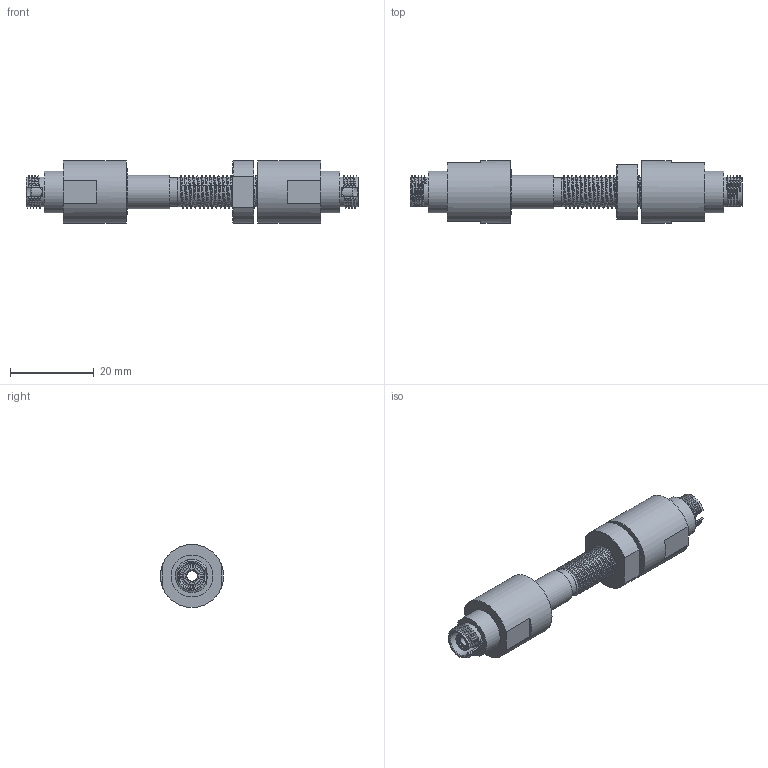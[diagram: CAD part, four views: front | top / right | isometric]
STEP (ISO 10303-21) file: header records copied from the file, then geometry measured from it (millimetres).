
FILE_DESCRIPTION (( 'STEP AP203' ), '1' );
FILE_NAME ('FFFC.STEP', '2024-04-19T18:01:36', ( '' ), ( '' ), 'SwSTEP 2.0', 'SolidWorks 2023', '' );
FILE_SCHEMA (( 'CONFIG_CONTROL_DESIGN' ));
Length unit declared in the file: millimetre
Products named in the file (1): FFFC
Bounding box: 79.1 x 15 x 15 mm (x, y, z)
Surface area: 5695.9 mm2 (no closed solid volume)
Topology: 0 solids, 12 shells, 177 faces, 476 edges, 319 vertices
Faces by surface type: cylinder 77, plane 61, bspline 22, cone 12, torus 5
Full cylindrical faces by diameter (mm): 2.7 x2, 3.3 x2, 4.4 x2, 6.1 x2, 6.8 x1, 7 x31, 7.1 x2, 7.4 x2, 8 x2, 10 x2, 12.8 x1, 15 x2
Entity records: 23935 total; most frequent: CARTESIAN_POINT 20838, ORIENTED_EDGE 633, DIRECTION 532, EDGE_CURVE 334, VERTEX_POINT 242, AXIS2_PLACEMENT_3D 209, EDGE_LOOP 192, FACE_OUTER_BOUND 168
